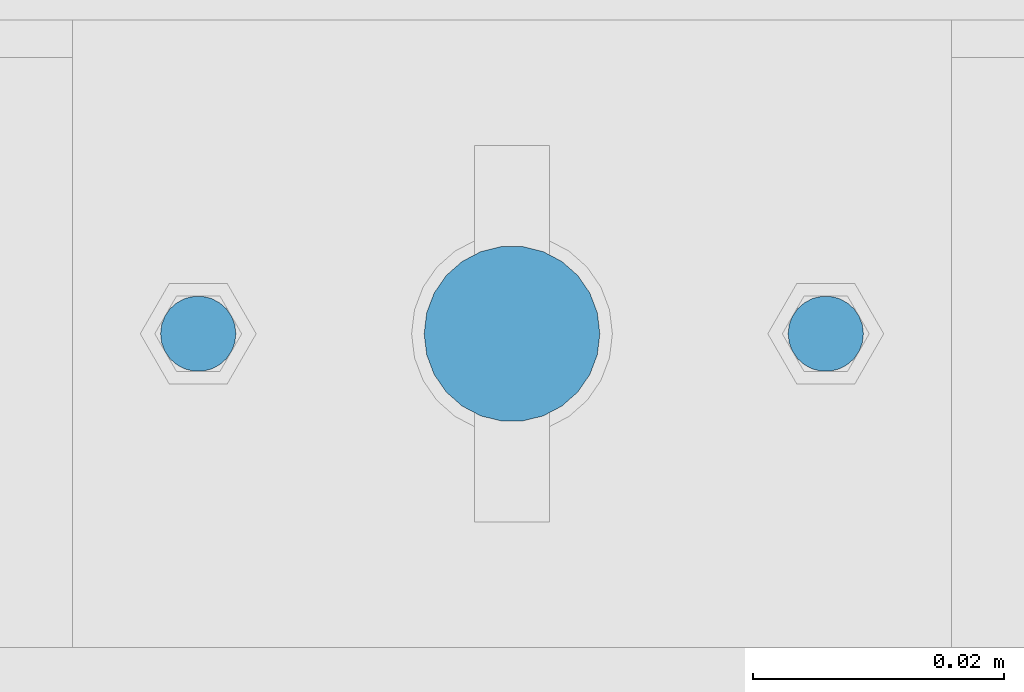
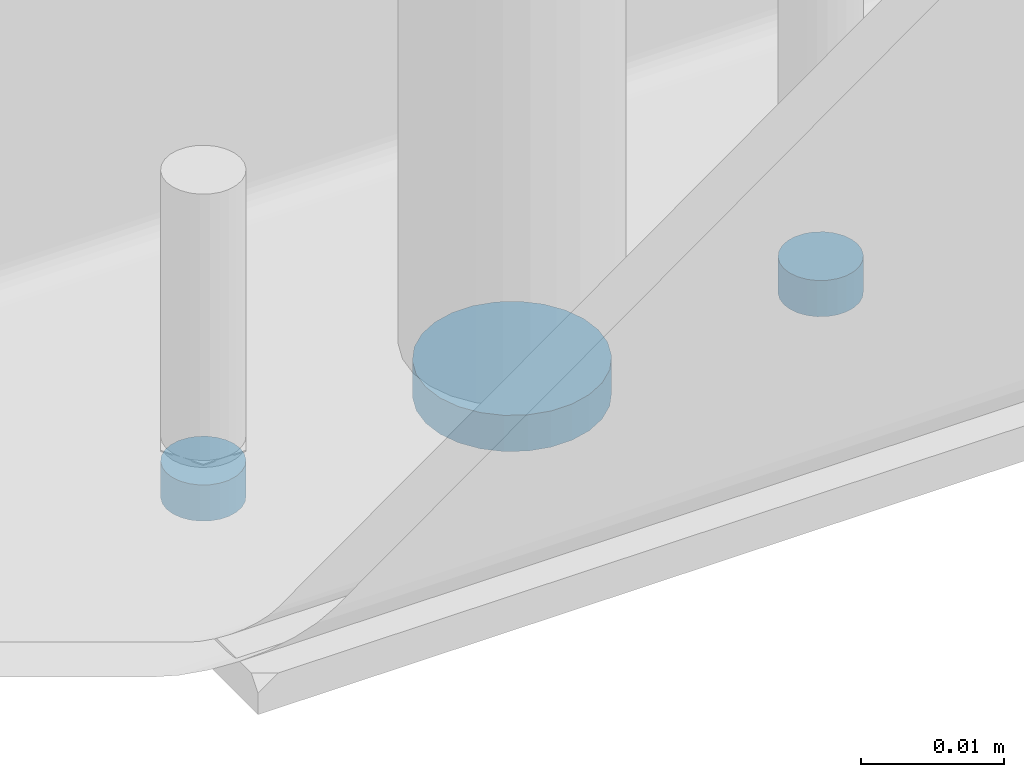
# One storey, part 26 of 91: 3 mechanical fasteners, 1 element without a shape of its own.
"""IFC2X3 building model written with IfcOpenShell, lengths in millimetres."""

from ifc_helpers import new_model, si_unit, frame, origin_with_axes, origin_2d_with_axis, place, context, subcontext, project, spatial, circle, extrude, source, transform, mapped, material, type_object, element, aggregate, save


model = new_model("IFC2X3")

# Units and contexts
model_context = context("Model", 3, precision=1e-05, world=origin_with_axes())
body_context = subcontext(model_context, "Body", "Model", "MODEL_VIEW")
ifc_project = project(units=[si_unit("LENGTHUNIT", "METRE", prefix="MILLI"), si_unit("AREAUNIT", "SQUARE_METRE"), si_unit("VOLUMEUNIT", "CUBIC_METRE"), si_unit("MASSUNIT", "GRAM", prefix="KILO"), si_unit("TIMEUNIT", "SECOND"), si_unit("PLANEANGLEUNIT", "RADIAN"), si_unit("SOLIDANGLEUNIT", "STERADIAN"), si_unit("THERMODYNAMICTEMPERATUREUNIT", "DEGREE_CELSIUS"), si_unit("LUMINOUSINTENSITYUNIT", "LUMEN")], contexts=[model_context])

# Site, building, storey
site_placement = place(None, origin_with_axes())
site = spatial("IfcSite", under=ifc_project, at=site_placement, Name="Undefined", CompositionType="ELEMENT")
building_placement = place(site_placement, origin_with_axes())
building = spatial("IfcBuilding", under=site, at=building_placement, Name="Undefined", CompositionType="ELEMENT")
storey_placement = place(building_placement, origin_with_axes())
storey = spatial("IfcBuildingStorey", under=building, at=storey_placement, Name="Undefined", CompositionType="ELEMENT", Elevation=0.0)

# Assembly, mechanical fasteners
assembly_placement = place(storey_placement, origin_with_axes())
assembly = element("IfcElementAssembly", 1, at=assembly_placement, inside=storey, Name="ROD", AssemblyPlace="NOTDEFINED", PredefinedType="RIGID_FRAME")
ifc_material = material(Name="8.8S")
discrete_accessory_type = type_object("IfcDiscreteAccessoryType", Name="Bolt assembly")
shared_shape_1 = source(origin_with_axes(), body_context, "Body", "SweptSolid", [
    extrude(circle(Radius=3.0, at=origin_2d_with_axis()), frame((0.0, -1.0, 0.0), z_axis=(0.0, 1.0, 0.0), x_axis=(1.0, 0.0, 0.0)), (0.0, 0.0, 1.0), 3.1),
])
mechanical_fastener_1_placement = place(assembly_placement, frame((-116595.84, 84712.15, 3324.0), z_axis=(0.0, 1.0, 0.0), x_axis=(-1.0, 0.0, 0.0)))
mechanical_fastener_1 = element("IfcMechanicalFastener", 2, at=mechanical_fastener_1_placement, type_object=discrete_accessory_type, material=ifc_material, Name="Bolt assembly", NominalDiameter=6.0, NominalLength=3.0, context=body_context, shape_type="MappedRepresentation", body=[
    mapped(shared_shape_1, transform((0.0, 0.0, 0.0))),
])
mechanical_fastener_2_placement = place(assembly_placement, frame((-116645.84, 84712.15, 3324.0), z_axis=(0.0, -1.0, 0.0), x_axis=(1.0, 0.0, 0.0)))
mechanical_fastener_2 = element("IfcMechanicalFastener", 3, at=mechanical_fastener_2_placement, type_object=discrete_accessory_type, material=ifc_material, Name="Bolt assembly", NominalDiameter=6.0, NominalLength=3.0, context=body_context, shape_type="MappedRepresentation", body=[
    mapped(shared_shape_1, transform((0.0, 0.0, 0.0))),
])
shared_shape_2 = source(origin_with_axes(), body_context, "Body", "SweptSolid", [
    extrude(circle(Radius=7.0, at=origin_2d_with_axis()), frame((0.0, -1.0, 0.0), z_axis=(0.0, 1.0, 0.0), x_axis=(1.0, 0.0, 0.0)), (0.0, 0.0, 1.0), 3.1),
])
mechanical_fastener_3_placement = place(assembly_placement, frame((-116620.84, 84712.15, 3324.0), z_axis=(0.0, -1.0, 0.0), x_axis=(1.0, 0.0, 0.0)))
mechanical_fastener_3 = element("IfcMechanicalFastener", 4, at=mechanical_fastener_3_placement, type_object=discrete_accessory_type, material=ifc_material, Name="Bolt assembly", NominalDiameter=12.0, NominalLength=3.0, context=body_context, shape_type="MappedRepresentation", body=[
    mapped(shared_shape_2, transform((0.0, 0.0, 0.0))),
])
aggregate(assembly, [mechanical_fastener_1, mechanical_fastener_2, mechanical_fastener_3])

save(model, "model.ifc")
